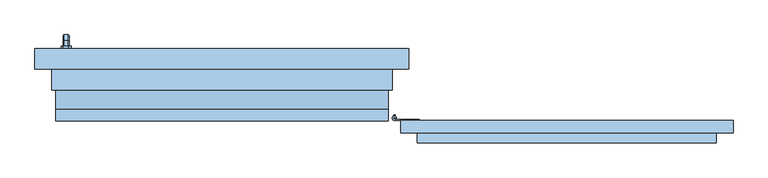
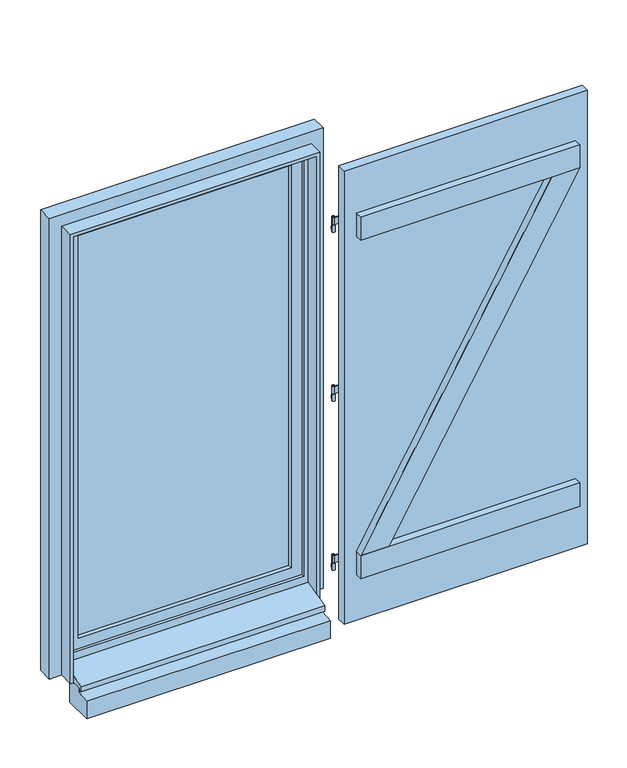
"""IFC4 building model written with IfcOpenShell, lengths in millimetres: window geometry, 1 Vantail droit - Volet et petits bois : 0.80m x 1.55m - Appui Béton."""

from ifc_helpers import new_model, si_unit, point, frame, frame_2d, origin, place, context, project, spatial, polyline, circle_curve, trimmed, segment, composite_curve, outline, extrude, faceted_brep, source, transform, mapped, element, save
from ifc_brep_helpers import plane_surface, cylinder_surface, advanced_brep


def window_5cb186f5(model_context):
    return source(origin(), model_context, "Body", "SolidModel", [
        extrude(outline(polyline([(1230.0, -93.0), (1230.0, -123.0), (430.0, -123.0), (430.0, -93.0), (1230.0, -93.0)])), frame((0.0, 0.0, 775.0), z_axis=(0.0, 0.0, 1.0), x_axis=(1.0, 0.0, 0.0)), (0.0, 0.0, 1.0), 1575.0),
        advanced_brep(
        [(410.0, -88.0, 975.0), (420.0, -88.0, 975.0), (410.0, -88.0, 950.0), (420.0, -88.0, 950.0), (417.0, -83.4174243, 955.0), (417.0, -83.4174243, 965.0), (413.0, -83.4174243, 965.0), (413.0, -83.4174243, 955.0), (413.0, -80.0, 965.0), (417.0, -80.0, 965.0), (417.0, -80.0, 955.0), (413.0, -80.0, 955.0)],
        [
            (0, 1, circle_curve(frame((415.0, -88.0, 975.0), z_axis=(0.0, 0.0, 1.0), x_axis=(1.0, 0.0, 0.0)), 5.0)),
            (1, 0, circle_curve(frame((415.0, -88.0, 975.0), z_axis=(0.0, 0.0, 1.0), x_axis=(1.0, 0.0, 0.0)), 5.0)),
            (2, 3, circle_curve(frame((415.0, -88.0, 950.0), z_axis=(0.0, 0.0, -1.0), x_axis=(1.0, 0.0, 0.0)), 5.0)),
            (3, 2, circle_curve(frame((415.0, -88.0, 950.0), z_axis=(0.0, 0.0, -1.0), x_axis=(1.0, 0.0, 0.0)), 5.0)),
            (1, 3),
            (2, 0),
            (4, 5),
            (5, 6, circle_curve(frame((415.0, -88.0, 965.0), z_axis=(0.0, 0.0, 1.0), x_axis=(1.0, 0.0, 0.0)), 5.0)),
            (6, 7),
            (7, 4, circle_curve(frame((415.0, -88.0, 955.0), z_axis=(0.0, 0.0, -1.0), x_axis=(1.0, 0.0, 0.0)), 5.0)),
            (8, 6),
            (5, 9),
            (9, 8),
            (10, 4),
            (7, 11),
            (11, 10),
            (10, 9),
            (8, 11),
        ],
        [
            plane_surface(frame((420.0, -88.0, 975.0), z_axis=(0.0, 0.0, 1.0), x_axis=(0.0, -1.0, 0.0))),
            plane_surface(frame((420.0, -88.0, 950.0), z_axis=(0.0, 0.0, -1.0), x_axis=(0.0, 1.0, 0.0))),
            cylinder_surface(frame((415.0, -88.0, 950.0), z_axis=(0.0, 0.0, 1.0), x_axis=(1.0, 0.0, 0.0)), 5.0),
            plane_surface(frame((417.0, -80.0, 965.0), z_axis=(0.0, 0.0, 1.0), x_axis=(0.0, -1.0, 0.0))),
            plane_surface(frame((417.0, -80.0, 955.0), z_axis=(0.0, 0.0, -1.0), x_axis=(0.0, 1.0, 0.0))),
            plane_surface(frame((417.0, -80.0, 965.0), z_axis=(1.0, 0.0, 0.0), x_axis=(0.0, 0.0, -1.0))),
            plane_surface(frame((413.0, -85.0, 965.0), z_axis=(-1.0, 0.0, 0.0), x_axis=(0.0, 0.0, -1.0))),
            plane_surface(frame((413.0, -80.0, 965.0), z_axis=(0.0, 1.0, 0.0), x_axis=(0.0, 0.0, -1.0))),
        ],
        [
            (0, [[1, 2]]),
            (1, [[3, 4]]),
            (2, [[5, -3, 6, -2], [7, 8, 9, 10]]),
            (2, [[-6, -4, -5, -1]]),
            (3, [[11, -8, 12, 13]]),
            (4, [[14, -10, 15, 16]]),
            (5, [[-12, -7, -14, 17]]),
            (6, [[-15, -9, -11, 18]]),
            (7, [[-17, -16, -18, -13]]),
        ],
    ),
        extrude(outline(composite_curve([segment(trimmed(circle_curve(frame_2d((415.0, -88.0)), 5.0), [point((415.0, -93.0))], [point((420.0, -88.0))], False, "CARTESIAN"), True, "CONTINUOUS"), segment(polyline([(420.0, -88.0), (417.5, -88.0)]), True, "CONTINUOUS"), segment(trimmed(circle_curve(frame_2d((415.0, -88.0)), 2.5), [point((417.5, -88.0))], [point((415.0, -90.5))], True, "CARTESIAN"), True, "CONTINUOUS"), segment(polyline([(415.0, -90.5), (474.3092325, -90.5), (474.3092325, -93.0), (415.0, -93.0)]), True, "CONTINUOUS")], self_intersect=False)), frame((0.0, 0.0, 975.0), z_axis=(0.0, 0.0, 1.0), x_axis=(1.0, 0.0, 0.0)), (0.0, 0.0, 1.0), 25.0),
        extrude(outline(composite_curve([segment(trimmed(circle_curve(frame_2d((415.0, -88.0)), 2.5), [point((412.5, -88.0))], [point((417.5, -88.0))], False, "CARTESIAN"), True, "CONTINUOUS"), segment(trimmed(circle_curve(frame_2d((415.0, -88.0)), 2.5), [point((417.5, -88.0))], [point((412.5, -88.0))], False, "CARTESIAN"), True, "CONTINUOUS")], self_intersect=False)), frame((0.0, 0.0, 975.0), z_axis=(0.0, 0.0, 1.0), x_axis=(1.0, 0.0, 0.0)), (0.0, 0.0, 1.0), 25.0),
        advanced_brep(
        [(410.0, -88.0, 2150.0), (420.0, -88.0, 2150.0), (410.0, -88.0, 2125.0), (420.0, -88.0, 2125.0), (413.0, -83.4174243, 2140.0), (413.0, -83.4174243, 2130.0), (417.0, -83.4174243, 2130.0), (417.0, -83.4174243, 2140.0), (413.0, -80.0, 2140.0), (417.0, -80.0, 2140.0), (413.0, -80.0, 2130.0), (417.0, -80.0, 2130.0)],
        [
            (0, 1, circle_curve(frame((415.0, -88.0, 2150.0), z_axis=(0.0, 0.0, 1.0), x_axis=(1.0, 0.0, 0.0)), 5.0)),
            (1, 0, circle_curve(frame((415.0, -88.0, 2150.0), z_axis=(0.0, 0.0, 1.0), x_axis=(1.0, 0.0, 0.0)), 5.0)),
            (2, 3, circle_curve(frame((415.0, -88.0, 2125.0), z_axis=(0.0, 0.0, -1.0), x_axis=(1.0, 0.0, 0.0)), 5.0)),
            (3, 2, circle_curve(frame((415.0, -88.0, 2125.0), z_axis=(0.0, 0.0, -1.0), x_axis=(1.0, 0.0, 0.0)), 5.0)),
            (1, 3),
            (2, 0),
            (4, 5),
            (5, 6, circle_curve(frame((415.0, -88.0, 2130.0), z_axis=(0.0, 0.0, -1.0), x_axis=(1.0, 0.0, 0.0)), 5.0)),
            (6, 7),
            (7, 4, circle_curve(frame((415.0, -88.0, 2140.0), z_axis=(0.0, 0.0, 1.0), x_axis=(1.0, 0.0, 0.0)), 5.0)),
            (8, 4),
            (7, 9),
            (9, 8),
            (10, 11),
            (11, 6),
            (5, 10),
            (9, 11),
            (10, 8),
        ],
        [
            plane_surface(frame((420.0, -88.0, 2150.0), z_axis=(0.0, 0.0, 1.0), x_axis=(0.0, -1.0, 0.0))),
            plane_surface(frame((420.0, -88.0, 2125.0), z_axis=(0.0, 0.0, -1.0), x_axis=(0.0, 1.0, 0.0))),
            cylinder_surface(frame((415.0, -88.0, 2125.0), z_axis=(0.0, 0.0, 1.0), x_axis=(1.0, 0.0, 0.0)), 5.0),
            plane_surface(frame((413.0, -80.0, 2140.0), z_axis=(0.0, 0.0, 1.0), x_axis=(1.0, 0.0, 0.0))),
            plane_surface(frame((413.0, -80.0, 2130.0), z_axis=(0.0, 0.0, -1.0), x_axis=(-1.0, 0.0, 0.0))),
            plane_surface(frame((413.0, -80.0, 2140.0), z_axis=(0.0, 1.0, 0.0), x_axis=(0.0, 0.0, -1.0))),
            plane_surface(frame((417.0, -80.0, 2140.0), z_axis=(1.0, 0.0, 0.0), x_axis=(0.0, 0.0, -1.0))),
            plane_surface(frame((413.0, -83.4174243, 2140.0), z_axis=(-1.0, 0.0, 0.0), x_axis=(0.0, 0.0, -1.0))),
        ],
        [
            (0, [[1, 2]]),
            (1, [[3, 4]]),
            (2, [[5, -3, 6, -2], [7, 8, 9, 10]]),
            (2, [[-6, -4, -5, -1]]),
            (3, [[11, -10, 12, 13]]),
            (4, [[14, 15, -8, 16]]),
            (5, [[17, -14, 18, -13]]),
            (6, [[-9, -15, -17, -12]]),
            (7, [[-18, -16, -7, -11]]),
        ],
    ),
        extrude(outline(polyline([(413.0, -80.0), (417.0, -80.0), (417.0, -83.4174243), (413.0, -83.4174243), (413.0, -80.0)])), frame((0.0, 0.0, 1542.5), z_axis=(0.0, 0.0, 1.0), x_axis=(1.0, 0.0, 0.0)), (0.0, 0.0, 1.0), 10.0),
        extrude(outline(composite_curve([segment(trimmed(circle_curve(frame_2d((415.0, -88.0)), 5.0), [point((415.0, -93.0))], [point((420.0, -88.0))], False, "CARTESIAN"), True, "CONTINUOUS"), segment(polyline([(420.0, -88.0), (417.5, -88.0)]), True, "CONTINUOUS"), segment(trimmed(circle_curve(frame_2d((415.0, -88.0)), 2.5), [point((417.5, -88.0))], [point((412.5, -88.0))], True, "CARTESIAN"), True, "CONTINUOUS"), segment(trimmed(circle_curve(frame_2d((415.0, -88.0)), 2.5), [point((412.5, -88.0))], [point((415.0, -90.5))], True, "CARTESIAN"), True, "CONTINUOUS"), segment(polyline([(415.0, -90.5), (474.3092325, -90.5), (474.3092325, -93.0), (415.0, -93.0)]), True, "CONTINUOUS")], self_intersect=False)), frame((0.0, 0.0, 1562.5), z_axis=(0.0, 0.0, 1.0), x_axis=(1.0, 0.0, 0.0)), (0.0, 0.0, 1.0), 25.0),
        extrude(outline(composite_curve([segment(trimmed(circle_curve(frame_2d((415.0, -88.0)), 2.5), [point((412.5, -88.0))], [point((417.5, -88.0))], False, "CARTESIAN"), True, "CONTINUOUS"), segment(trimmed(circle_curve(frame_2d((415.0, -88.0)), 2.5), [point((417.5, -88.0))], [point((412.5, -88.0))], False, "CARTESIAN"), True, "CONTINUOUS")], self_intersect=False)), frame((0.0, 0.0, 1562.5), z_axis=(0.0, 0.0, 1.0), x_axis=(1.0, 0.0, 0.0)), (0.0, 0.0, 1.0), 25.0),
        extrude(outline(composite_curve([segment(trimmed(circle_curve(frame_2d((415.0, -88.0)), 5.0), [point((410.0, -88.0))], [point((420.0, -88.0))], False, "CARTESIAN"), True, "CONTINUOUS"), segment(trimmed(circle_curve(frame_2d((415.0, -88.0)), 5.0), [point((420.0, -88.0))], [point((410.0, -88.0))], False, "CARTESIAN"), True, "CONTINUOUS")], self_intersect=False)), frame((0.0, 0.0, 1537.5), z_axis=(0.0, 0.0, 1.0), x_axis=(1.0, 0.0, 0.0)), (0.0, 0.0, 1.0), 25.0),
        extrude(outline(composite_curve([segment(trimmed(circle_curve(frame_2d((415.0, -88.0)), 5.0), [point((415.0, -93.0))], [point((420.0, -88.0))], False, "CARTESIAN"), True, "CONTINUOUS"), segment(polyline([(420.0, -88.0), (417.5, -88.0)]), True, "CONTINUOUS"), segment(trimmed(circle_curve(frame_2d((415.0, -88.0)), 2.5), [point((417.5, -88.0))], [point((415.0, -90.5))], True, "CARTESIAN"), True, "CONTINUOUS"), segment(polyline([(415.0, -90.5), (474.3092325, -90.5), (474.3092325, -93.0), (415.0, -93.0)]), True, "CONTINUOUS")], self_intersect=False)), frame((0.0, 0.0, 2150.0), z_axis=(0.0, 0.0, 1.0), x_axis=(1.0, 0.0, 0.0)), (0.0, 0.0, 1.0), 25.0),
        extrude(outline(composite_curve([segment(trimmed(circle_curve(frame_2d((415.0, -88.0)), 2.5), [point((412.5, -88.0))], [point((417.5, -88.0))], False, "CARTESIAN"), True, "CONTINUOUS"), segment(trimmed(circle_curve(frame_2d((415.0, -88.0)), 2.5), [point((417.5, -88.0))], [point((412.5, -88.0))], False, "CARTESIAN"), True, "CONTINUOUS")], self_intersect=False)), frame((0.0, 0.0, 2150.0), z_axis=(0.0, 0.0, 1.0), x_axis=(1.0, 0.0, 0.0)), (0.0, 0.0, 1.0), 25.0),
        extrude(outline(polyline([(2110.0, 1190.0), (2110.0, 1097.7847934), (1015.0, 470.0007252), (1015.0, 562.2159319), (2110.0, 1190.0)])), frame((0.0, -148.0, 0.0), z_axis=(0.0, 1.0, 0.0), x_axis=(0.0, 0.0, 1.0)), (0.0, 0.0, 1.0), 25.0),
        extrude(outline(polyline([(470.0, -148.0), (470.0, -123.0), (1190.0, -123.0), (1190.0, -148.0), (470.0, -148.0)])), frame((0.0, 0.0, 2110.0), z_axis=(0.0, 0.0, 1.0), x_axis=(1.0, 0.0, 0.0)), (0.0, 0.0, 1.0), 80.0),
        extrude(outline(polyline([(470.0, -148.0), (470.0, -123.0), (1190.0, -123.0), (1190.0, -148.0), (470.0, -148.0)])), frame((0.0, 0.0, 935.0), z_axis=(0.0, 0.0, 1.0), x_axis=(1.0, 0.0, 0.0)), (0.0, 0.0, 1.0), 80.0),
        faceted_brep([(-369.3539903, 86.0, 1422.0339292), (-380.6460097, 86.0, 1422.0339292), (-382.0339292, 86.0, 1420.6460097), (-382.0339292, 86.0, 1409.3323012), (-380.6676988, 86.0, 1407.9660708), (-369.3323012, 86.0, 1407.9660708), (-367.9660708, 86.0, 1409.3323012), (-367.9660708, 86.0, 1420.6460097), (-367.9660708, 98.3386538, 1420.6460097), (-369.3539903, 98.9135489, 1422.0339292), (-367.9660708, 93.6523623, 1409.3323012), (-367.9660708, 100.3323012, 1402.6523623), (-367.9660708, 100.3323012, 1320.0), (-367.9660708, 111.6460097, 1320.0), (-367.9660708, 111.6460097, 1407.3386538), (-369.3323012, 93.0864511, 1407.9660708), (-380.6676988, 93.0864511, 1407.9660708), (-382.0339292, 93.6523623, 1409.3323012), (-382.0339292, 98.3386538, 1420.6460097), (-382.0339292, 111.6460097, 1407.3386538), (-382.0339292, 111.6460097, 1320.0), (-382.0339292, 100.3323012, 1320.0), (-382.0339292, 100.3323012, 1402.6523623), (-380.6460097, 98.9135489, 1422.0339292), (-369.3539903, 113.0339292, 1407.9135489), (-369.3323012, 98.9660708, 1402.0864511), (-380.6676988, 98.9660708, 1402.0864511), (-380.6460097, 113.0339292, 1407.9135489), (-369.3539903, 113.0339292, 1320.0), (-369.3323012, 98.9660708, 1320.0), (-380.6676988, 98.9660708, 1320.0), (-380.6460097, 113.0339292, 1320.0)], [[[0, 1, 2, 3, 4, 5, 6, 7]], [[7, 8, 9, 0]], [[6, 10, 11, 12, 13, 14, 8, 7]], [[5, 15, 10, 6]], [[4, 16, 15, 5]], [[3, 17, 16, 4]], [[2, 18, 19, 20, 21, 22, 17, 3]], [[1, 23, 18, 2]], [[0, 9, 23, 1]], [[8, 14, 24, 9]], [[15, 25, 11, 10]], [[16, 26, 25, 15]], [[17, 22, 26, 16]], [[23, 27, 19, 18]], [[9, 24, 27, 23]], [[28, 13, 12, 29, 30, 21, 20, 31]], [[14, 13, 28, 24]], [[25, 29, 12, 11]], [[26, 30, 29, 25]], [[22, 21, 30, 26]], [[27, 31, 20, 19]], [[24, 28, 31, 27]]]),
        extrude(outline(polyline([(1440.0, -368.0), (1440.0, -382.0), (1435.0, -387.0), (1365.0, -387.0), (1360.0, -382.0), (1360.0, -368.0), (1365.0, -363.0), (1435.0, -363.0), (1440.0, -368.0)])), frame((0.0, 80.0, 0.0), z_axis=(0.0, 1.0, 0.0), x_axis=(0.0, 0.0, 1.0)), (0.0, 0.0, 1.0), 6.0),
        extrude(outline(polyline([(0.0, 800.0), (0.0, 720.0), (-95.0, 720.0), (-95.0, 780.2703094), (-50.0, 785.0), (-50.0, 800.0), (0.0, 800.0)])), frame((-400.0, 0.0, 0.0), z_axis=(1.0, 0.0, 0.0), x_axis=(0.0, 1.0, 0.0)), (0.0, 0.0, 1.0), 800.0),
        extrude(outline(polyline([(850.0, -400.0), (850.0, 400.0), (2350.0, 400.0), (2350.0, -400.0), (850.0, -400.0)]), holes=[polyline([(900.0, 350.0), (900.0, -350.0), (2300.0, -350.0), (2300.0, 350.0), (900.0, 350.0)])]), frame((0.0, 40.0, 0.0), z_axis=(0.0, 1.0, 0.0), x_axis=(0.0, 0.0, 1.0)), (0.0, 0.0, 1.0), 40.0),
        faceted_brep([(-450.0, 80.0, 800.0), (450.0, 80.0, 800.0), (450.0, 30.0, 800.0), (400.0, 30.0, 800.0), (400.0, -55.0, 800.0), (-400.0, -55.0, 800.0), (-400.0, 30.0, 800.0), (-450.0, 30.0, 800.0), (-450.0, 30.0, 2400.0), (-450.0, 80.0, 2400.0), (-400.0, 30.0, 839.3761425), (400.0, 30.0, 839.3761425), (450.0, 30.0, 2400.0), (-385.0, 30.0, 2335.0), (385.0, 30.0, 2335.0), (385.0, 30.0, 865.0), (-385.0, 30.0, 865.0), (-400.0, -55.0, 795.0), (-400.0, -65.0, 795.0), (-400.0, -65.0, 813.9209692), (400.0, -55.0, 795.0), (400.0, -65.0, 813.9209692), (400.0, -65.0, 795.0), (450.0, 80.0, 2400.0), (400.0, 80.0, 2350.0), (-400.0, 80.0, 2350.0), (-400.0, 80.0, 850.0), (400.0, 80.0, 850.0), (-385.0, 40.0, 865.0), (-385.0, 40.0, 2335.0), (385.0, 40.0, 865.0), (385.0, 40.0, 2335.0), (400.0, 40.0, 2350.0), (400.0, 40.0, 850.0), (-400.0, 40.0, 850.0), (-400.0, 40.0, 2350.0)], [[[0, 1, 2, 3, 4, 5, 6, 7]], [[7, 8, 9, 0]], [[7, 6, 10, 11, 3, 2, 12, 8], [13, 14, 15, 16]], [[10, 6, 5, 17, 18, 19]], [[5, 4, 20, 17]], [[4, 3, 11, 21, 22, 20]], [[2, 1, 23, 12]], [[0, 9, 23, 1], [24, 25, 26, 27]], [[13, 16, 28, 29]], [[28, 16, 15, 30]], [[31, 30, 15, 14]], [[19, 21, 11, 10]], [[32, 33, 34, 35], [29, 28, 30, 31]], [[34, 26, 25, 35]], [[26, 34, 33, 27]], [[24, 27, 33, 32]], [[18, 22, 21, 19]], [[17, 20, 22, 18]], [[13, 29, 31, 14]], [[35, 25, 24, 32]], [[12, 23, 9, 8]]]),
        extrude(outline(polyline([(800.0, -400.0), (2350.0, -400.0), (2350.0, 400.0), (800.0, 400.0), (800.0, 410.0), (2360.0, 410.0), (2360.0, -410.0), (800.0, -410.0), (800.0, -400.0)])), frame((0.0, -20.0, 0.0), z_axis=(0.0, 1.0, 0.0), x_axis=(0.0, 0.0, 1.0)), (0.0, 0.0, 1.0), 50.0),
        extrude(outline(polyline([(-350.0, 54.0), (-350.0, 66.0), (350.0, 66.0), (350.0, 54.0), (-350.0, 54.0)])), frame((0.0, 0.0, 900.0), z_axis=(0.0, 0.0, 1.0), x_axis=(1.0, 0.0, 0.0)), (0.0, 0.0, 1.0), 1400.0),
    ])


if __name__ == "__main__":
    model = new_model("IFC4")
    model_context = context("Model", 3, world=origin())
    ifc_project = project(units=[si_unit("LENGTHUNIT", "METRE", prefix="MILLI")], contexts=[model_context])
    site = spatial("IfcSite", under=ifc_project)
    building = spatial("IfcBuilding", under=site)
    placement = place(None, origin())
    window_shape = window_5cb186f5(model_context)
    element("IfcWindow", 1, ObjectType="1 Vantail droit - Volet et petits bois : 0.80m x 1.55m - Appui Béton", at=placement, inside=building, context=model_context, shape_type="MappedRepresentation", body=[
        mapped(window_shape, transform((0.0, 0.0, 0.0), x_axis=(1.0, 0.0, 0.0), y_axis=(0.0, 1.0, 0.0), z_axis=(0.0, 0.0, 1.0))),
    ])
    save(model, "model.ifc")
